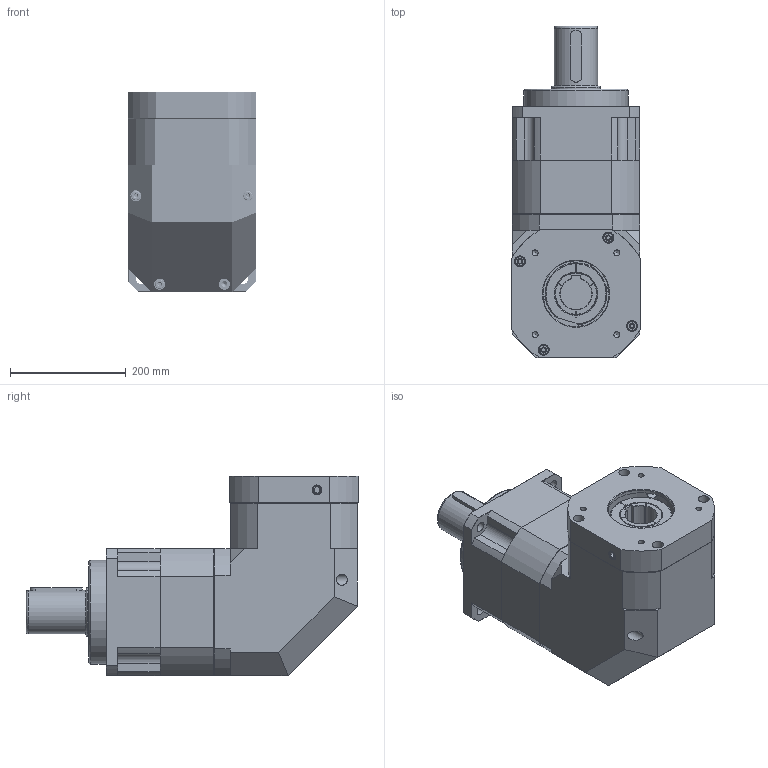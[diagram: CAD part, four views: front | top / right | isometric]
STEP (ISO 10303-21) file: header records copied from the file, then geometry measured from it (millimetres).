
FILE_DESCRIPTION((''),'2;1');
FILE_NAME('C:\Work\감속기 카다로그 도면\ATG Reducer(홈페이지)\KSBL\KSBL-220A-2.stp','2014-04-09T14:11:55',('young'),(''),'Autodesk Inventor 2012','Autodesk Inventor 2012','');
FILE_SCHEMA(('AUTOMOTIVE_DESIGN { 1 0 10303 214 1 1 1 1 }'));
Length unit declared in the file: millimetre
Products named in the file (3): KSBL-220A-2; KSBL-220A-BK
Assembly tree (2 placements, depth 2):
  KSBL-220A-2
    KSBL-220A-2
    KSBL-220A-BK
Bounding box: 222 x 574.6 x 345 mm (x, y, z)
Volume: 15818432.7 mm3; surface area: 1288954.1 mm2
Topology: 22 solids, 22 shells, 840 faces, 2479 edges, 1732 vertices
Faces by surface type: plane 371, cylinder 326, cone 99, bspline 27, torus 17
Full cylindrical faces by diameter (mm): 7 x4, 8.6 x1, 10 x154, 10.2 x12, 11 x1, 12 x25, 13 x12, 14 x1, 14.275 x2, 14.5 x2, 16 x5, 17 x4, 18 x5, 19 x8, 60 x1, 66 x1, 70 x1, 72 x1, 72.2 x1, 74.8 x1, 75 x1, 84.8 x1, 85 x1, 88 x1, 90 x3, 104.992 x1, 114.3 x1, 115 x2, 142 x3, 155 x1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
Entity records: 62580 total; most frequent: CARTESIAN_POINT 44917, ORIENTED_EDGE 4184, DIRECTION 3001, EDGE_CURVE 2092, VERTEX_POINT 1692, AXIS2_PLACEMENT_3D 1142, EDGE_LOOP 952, VECTOR 717
